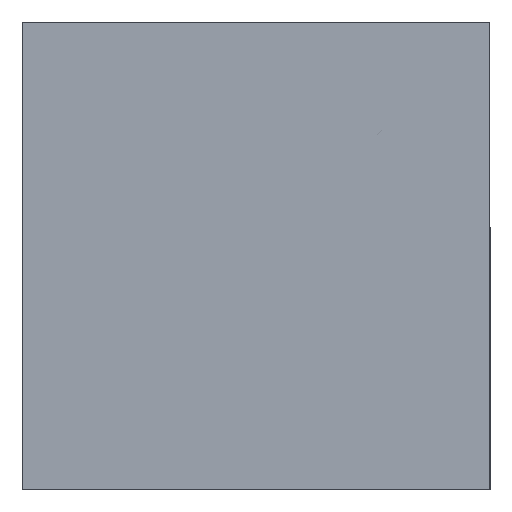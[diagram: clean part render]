
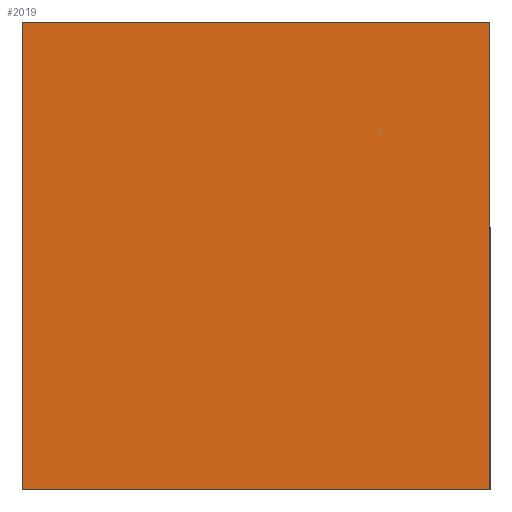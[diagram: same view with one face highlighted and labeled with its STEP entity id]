
A CAD part, left-side view. The second image highlights one B-rep face of the part: STEP entity #2019.
In plain terms, the highlighted planar face has unit normal (-1, 0, 0).
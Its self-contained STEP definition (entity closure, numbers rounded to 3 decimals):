
#115=LINE('',#3044,#291);
#119=LINE('',#3055,#295);
#122=LINE('',#3080,#298);
#124=LINE('',#3083,#300);
#291=VECTOR('',#2439,10.);
#295=VECTOR('',#2449,10.);
#298=VECTOR('',#2480,10.);
#300=VECTOR('',#2484,10.);
#467=PLANE('',#2220);
#619=FACE_OUTER_BOUND('',#749,.T.);
#749=EDGE_LOOP('',(#1486,#1487,#1488,#1489));
#971=VERTEX_POINT('',#3041);
#972=VERTEX_POINT('',#3043);
#976=VERTEX_POINT('',#3053);
#984=VERTEX_POINT('',#3079);
#1167=EDGE_CURVE('',#971,#972,#115,.T.);
#1173=EDGE_CURVE('',#976,#971,#119,.T.);
#1182=EDGE_CURVE('',#984,#972,#122,.T.);
#1184=EDGE_CURVE('',#984,#976,#124,.T.);
#1486=ORIENTED_EDGE('',*,*,#1184,.F.);
#1487=ORIENTED_EDGE('',*,*,#1182,.T.);
#1488=ORIENTED_EDGE('',*,*,#1167,.F.);
#1489=ORIENTED_EDGE('',*,*,#1173,.F.);
#2019=ADVANCED_FACE('',(#619),#467,.T.);
#2220=AXIS2_PLACEMENT_3D('',#3082,#2482,#2483);
#2439=DIRECTION('',(0.,-1.,0.));
#2449=DIRECTION('',(0.,0.,1.));
#2480=DIRECTION('',(0.,0.,1.));
#2482=DIRECTION('center_axis',(-1.,0.,0.));
#2483=DIRECTION('ref_axis',(0.,-1.,0.));
#2484=DIRECTION('',(0.,1.,0.));
#3041=CARTESIAN_POINT('',(-25.,12.5,25.));
#3043=CARTESIAN_POINT('',(-25.,-12.5,25.));
#3044=CARTESIAN_POINT('',(-25.,-12.5,25.));
#3053=CARTESIAN_POINT('',(-25.,12.5,0.));
#3055=CARTESIAN_POINT('',(-25.,12.5,0.));
#3079=CARTESIAN_POINT('',(-25.,-12.5,0.));
#3080=CARTESIAN_POINT('',(-25.,-12.5,0.));
#3082=CARTESIAN_POINT('Origin',(-25.,12.5,0.));
#3083=CARTESIAN_POINT('',(-25.,-12.5,0.));
